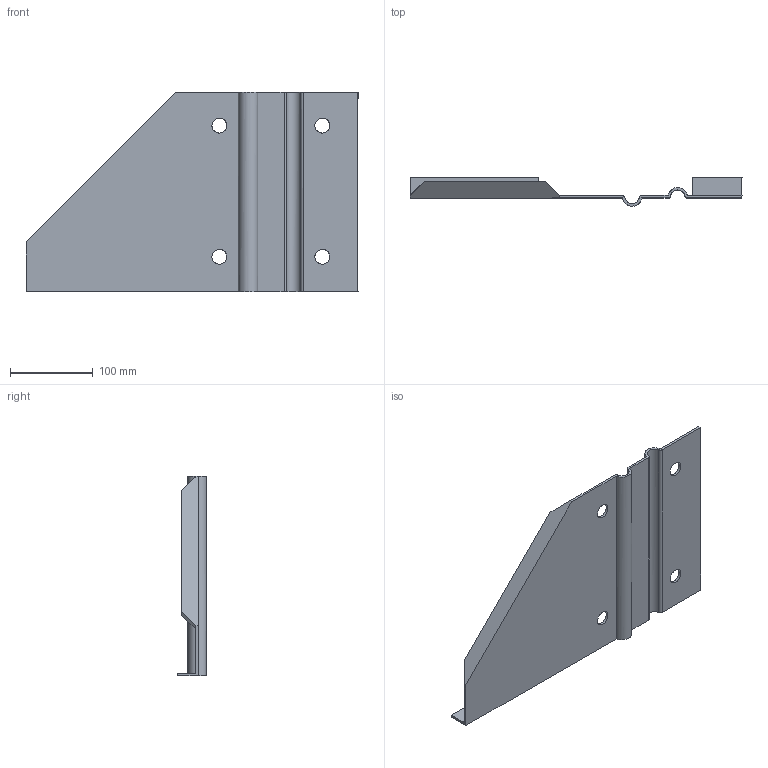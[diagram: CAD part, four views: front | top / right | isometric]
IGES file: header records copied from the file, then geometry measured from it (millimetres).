
Global section: file name: CB220; native system: Autodesk RealDWG; preprocessor: Autodesk Translation Framework DWG producer (atf_dwg_producer); organization: unknown; date: 20241104.101549; units: millimetre
Bounding box: 400 x 34.74 x 240 mm (x, y, z)
Volume: 276341.2 mm3; surface area: 188882.5 mm2
Topology: 1 solids, 1 shells, 34 faces, 101 edges, 69 vertices
Faces by surface type: bspline 34
